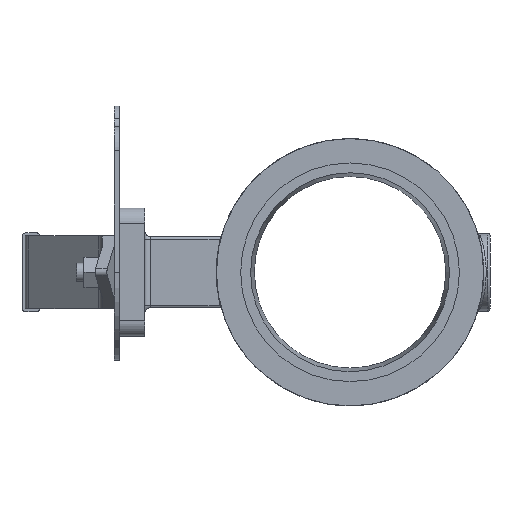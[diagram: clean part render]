
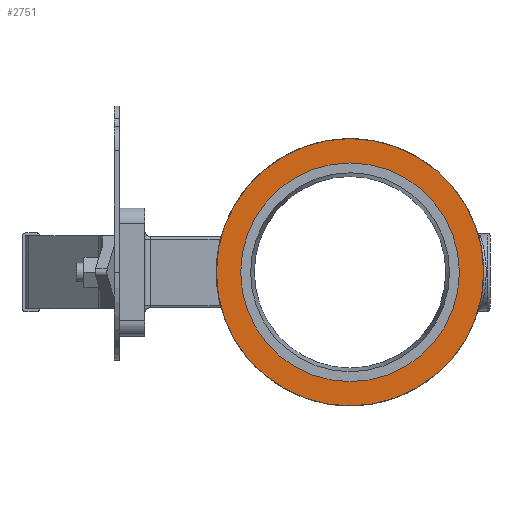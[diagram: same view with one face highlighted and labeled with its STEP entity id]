
A CAD part, left-side view. The second image highlights one B-rep face of the part: STEP entity #2751.
In plain terms, the highlighted planar face has unit normal (-1, 0, 0) as drawn and (0, 0, 1) by its records, which use the part's own axes.
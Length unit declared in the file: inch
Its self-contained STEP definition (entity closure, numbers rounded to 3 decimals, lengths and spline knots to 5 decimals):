
#112=FACE_BOUND('',#436,.T.);
#152=PLANE('',#3106);
#267=FACE_OUTER_BOUND('',#435,.T.);
#435=EDGE_LOOP('',(#2072,#2073));
#436=EDGE_LOOP('',(#2074,#2075));
#938=CIRCLE('',#3041,2.75);
#939=CIRCLE('',#3042,2.75);
#978=CIRCLE('',#3104,2.167);
#979=CIRCLE('',#3105,2.167);
#1156=VERTEX_POINT('',#4845);
#1157=VERTEX_POINT('',#4847);
#1177=VERTEX_POINT('',#5098);
#1178=VERTEX_POINT('',#5099);
#1450=EDGE_CURVE('',#1156,#1157,#938,.T.);
#1451=EDGE_CURVE('',#1157,#1156,#939,.T.);
#1495=EDGE_CURVE('',#1177,#1178,#978,.T.);
#1496=EDGE_CURVE('',#1178,#1177,#979,.T.);
#2072=ORIENTED_EDGE('',*,*,#1451,.F.);
#2073=ORIENTED_EDGE('',*,*,#1450,.F.);
#2074=ORIENTED_EDGE('',*,*,#1495,.T.);
#2075=ORIENTED_EDGE('',*,*,#1496,.T.);
#2751=ADVANCED_FACE('',(#267,#112),#152,.T.);
#3041=AXIS2_PLACEMENT_3D('',#4848,#3536,#3537);
#3042=AXIS2_PLACEMENT_3D('',#4849,#3538,#3539);
#3104=AXIS2_PLACEMENT_3D('',#5100,#3665,#3666);
#3105=AXIS2_PLACEMENT_3D('',#5101,#3667,#3668);
#3106=AXIS2_PLACEMENT_3D('',#5103,#3670,#3671);
#3536=DIRECTION('center_axis',(0.,0.,-1.));
#3537=DIRECTION('ref_axis',(1.,0.,0.));
#3538=DIRECTION('center_axis',(0.,0.,-1.));
#3539=DIRECTION('ref_axis',(1.,0.,0.));
#3665=DIRECTION('center_axis',(0.,0.,-1.));
#3666=DIRECTION('ref_axis',(1.,0.,0.));
#3667=DIRECTION('center_axis',(0.,0.,-1.));
#3668=DIRECTION('ref_axis',(1.,0.,0.));
#3670=DIRECTION('center_axis',(0.,0.,1.));
#3671=DIRECTION('ref_axis',(1.,0.,0.));
#4845=CARTESIAN_POINT('',(0.,-2.75,1.5));
#4847=CARTESIAN_POINT('',(0.,2.75,1.5));
#4848=CARTESIAN_POINT('Origin',(0.,0.,1.5));
#4849=CARTESIAN_POINT('Origin',(0.,0.,1.5));
#5098=CARTESIAN_POINT('',(0.,2.167,1.5));
#5099=CARTESIAN_POINT('',(0.,-2.167,1.5));
#5100=CARTESIAN_POINT('Origin',(0.,0.,1.5));
#5101=CARTESIAN_POINT('Origin',(0.,0.,1.5));
#5103=CARTESIAN_POINT('Origin',(0.,2.75,1.5));
